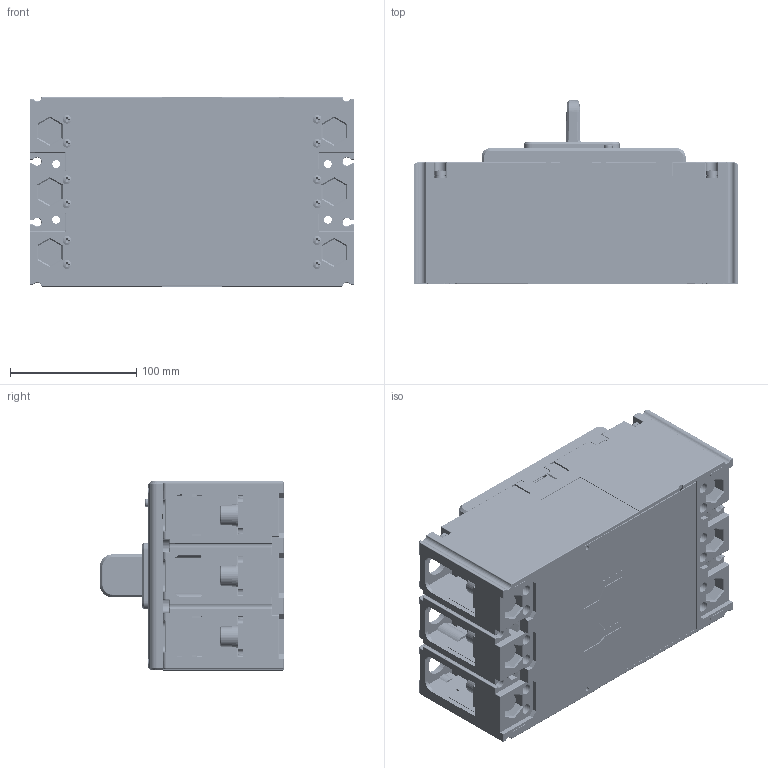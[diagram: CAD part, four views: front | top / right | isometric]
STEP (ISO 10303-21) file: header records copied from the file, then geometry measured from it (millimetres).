
FILE_DESCRIPTION((''),'2;1');
FILE_NAME('2253011200_ASM','2021-10-22T',('yan.shen'),(''),'PRO/ENGINEER BY PARAMETRIC TECHNOLOGY CORPORATION, 2015440','PRO/ENGINEER BY PARAMETRIC TECHNOLOGY CORPORATION, 2015440','');
FILE_SCHEMA(('CONFIG_CONTROL_DESIGN'));
Products named in the file (48): JZ-5DLX_024_271; GB_T809-M5X16; 5024027100_ASM; 8940007800; 8551033800; 8550073900; 8955003200; 5551071100_ASM; 7010100505J_GB_T823_M4X10; 7090300401K_GB_T93_4; GB_T97_4-4; 5850007500_ASM; 7030100002_GB_T9074_4_M5X45_R; 8420020800; 5295004600_ASM; 8742103700; 8253069300; 8253057400; 8865077500_AF0; 8865077600_AF0; 5253021200_ASM; 8742118200; GB_T70_1-M10X25; GB_T9074_26-10; GB_T97_4_10; 5850002600_ASM; 8315074100; GB_T809-M3X8; 8322008300; 5315015800_ASM; GB_T823-M5X35; 7090300501K_GB_T93_5; GB_T97_4_5; 5850007400_ASM; 8282201200_AF6; 8253201300; 8860163300; 8315074300; 7010100305R01_GB_T823_M3X10; 7090300201_GB_T93_3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
Assembly tree (111 placements, depth 4):
  2253011200_ASM
    5295004600_ASM
      5024027100_ASM
        JZ-5DLX_024_271
        GB_T809-M5X16  x8
      8940007800  x6
      5551071100_ASM  x3
        8551033800
        8550073900
        8955003200
      5850007500_ASM  x18
        7010100505J_GB_T823_M4X10
        7090300401K_GB_T93_4
        GB_T97_4-4
      7030100002_GB_T9074_4_M5X45_R  x4
      8420020800  x3
    8742103700  x3
    8253069300  x5
    5253021200_ASM
      8253057400
      8865077500_AF0
      8865077600_AF0
    8742118200  x3
    5850002600_ASM  x6
      GB_T70_1-M10X25
      GB_T9074_26-10
      GB_T97_4_10
    5315015800_ASM
      8315074100
      GB_T809-M3X8  x4
      8322008300
    5850007400_ASM  x8
      GB_T823-M5X35
      7090300501K_GB_T93_5
      GB_T97_4_5
    8282201200_AF6
    8253201300
    8322008300  x2
    8860163300
    8315074300
    5850007700_ASM  x4
      7010100305R01_GB_T823_M3X10
      7090300201_GB_T93_3
      GB_T97_4_3
    8315074500
    8860167400
    8860167500
    8742103900
    8867005200
Bounding box: 257 x 145.9 x 150.2 mm (x, y, z)
Volume: 1439535.8 mm3; surface area: 708116.9 mm2
Topology: 170 solids, 246 shells, 7741 faces, 19516 edges, 12432 vertices
Faces by surface type: plane 4135, cylinder 2281, extrusion 415, cone 368, torus 268, sphere 160, bspline 114
Entity records: 182380 total; most frequent: CARTESIAN_POINT 51278, ORIENTED_EDGE 27628, DIRECTION 25855, EDGE_CURVE 13846, VECTOR 9687, LINE 9272, VERTEX_POINT 8901, AXIS2_PLACEMENT_3D 8084
